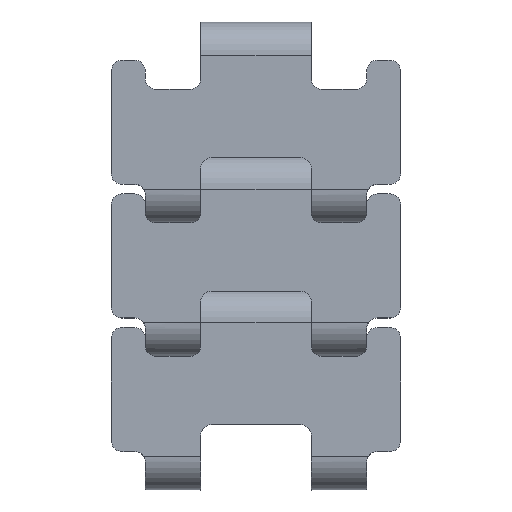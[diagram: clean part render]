
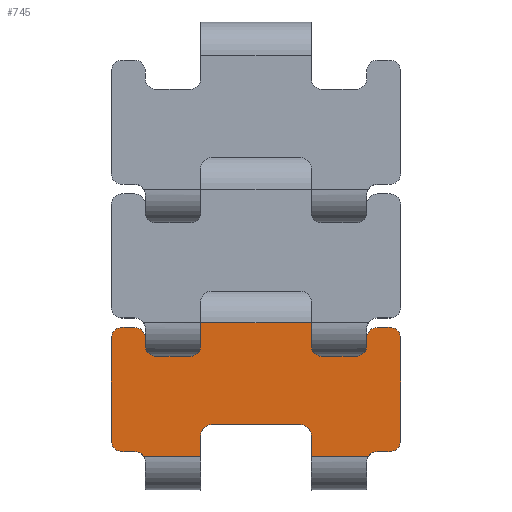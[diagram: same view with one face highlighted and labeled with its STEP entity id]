
A CAD part, top view. The second image highlights one B-rep face of the part: STEP entity #745.
In plain terms, the highlighted planar face has unit normal (0, 0, 1).
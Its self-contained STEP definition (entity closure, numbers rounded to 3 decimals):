
#673=EDGE_CURVE('',#1874,#1875,#1876,.T.);
#687=EDGE_CURVE('',#1897,#1898,#1899,.T.);
#689=EDGE_CURVE('',#1901,#1902,#1903,.T.);
#703=EDGE_CURVE('',#1928,#1929,#1930,.F.);
#745=ADVANCED_FACE('',(#2001),#2002,.F.);
#763=EDGE_CURVE('',#2034,#2004,#2035,.T.);
#781=EDGE_CURVE('',#2065,#2066,#2067,.F.);
#797=EDGE_CURVE('',#2091,#2092,#2093,.F.);
#831=EDGE_CURVE('',#1921,#2144,#2145,.T.);
#851=EDGE_CURVE('',#1928,#2177,#2178,.F.);
#985=EDGE_CURVE('',#2385,#2144,#2386,.T.);
#999=EDGE_CURVE('',#2177,#1921,#2403,.T.);
#1001=EDGE_CURVE('',#2405,#2406,#2407,.T.);
#1027=EDGE_CURVE('',#2216,#1874,#2442,.F.);
#1031=EDGE_CURVE('',#2004,#2405,#2446,.F.);
#1069=EDGE_CURVE('',#1902,#1897,#2499,.F.);
#1103=EDGE_CURVE('',#2092,#2301,#2547,.T.);
#1149=EDGE_CURVE('',#2610,#2358,#2611,.F.);
#1229=EDGE_CURVE('',#1757,#1901,#2715,.F.);
#1243=EDGE_CURVE('',#2358,#2733,#2734,.T.);
#1299=EDGE_CURVE('',#1875,#2806,#2807,.T.);
#1315=EDGE_CURVE('',#2825,#2826,#2827,.T.);
#1371=EDGE_CURVE('',#2406,#2825,#2898,.F.);
#1379=EDGE_CURVE('',#2385,#2529,#2907,.F.);
#1411=EDGE_CURVE('',#1929,#2034,#2943,.F.);
#1449=EDGE_CURVE('',#2216,#2065,#2988,.F.);
#1547=EDGE_CURVE('',#2301,#3037,#3101,.F.);
#1557=EDGE_CURVE('',#2733,#1898,#3111,.F.);
#1559=EDGE_CURVE('',#3037,#2259,#3113,.T.);
#1603=EDGE_CURVE('',#2066,#2091,#3166,.T.);
#1639=EDGE_CURVE('',#2826,#1757,#3205,.T.);
#1707=EDGE_CURVE('',#2529,#2806,#3288,.T.);
#1709=EDGE_CURVE('',#2259,#2610,#3290,.T.);
#1757=VERTEX_POINT('',#3335);
#1874=VERTEX_POINT('',#3491);
#1875=VERTEX_POINT('',#3492);
#1876=LINE('',#3493,#3494);
#1897=VERTEX_POINT('',#3521);
#1898=VERTEX_POINT('',#3522);
#1899=LINE('',#3523,#3524);
#1901=VERTEX_POINT('',#3527);
#1902=VERTEX_POINT('',#3528);
#1903=CIRCLE('',#3529,2.0);
#1921=VERTEX_POINT('',#3555);
#1928=VERTEX_POINT('',#3564);
#1929=VERTEX_POINT('',#3565);
#1930=LINE('',#3566,#3567);
#2001=FACE_OUTER_BOUND('',#3663,.T.);
#2002=PLANE('',#3664);
#2004=VERTEX_POINT('',#3667);
#2034=VERTEX_POINT('',#3709);
#2035=LINE('',#3710,#3711);
#2065=VERTEX_POINT('',#3749);
#2066=VERTEX_POINT('',#3750);
#2067=CIRCLE('',#3751,2.0);
#2091=VERTEX_POINT('',#3781);
#2092=VERTEX_POINT('',#3782);
#2093=CIRCLE('',#3783,2.0);
#2144=VERTEX_POINT('',#3848);
#2145=LINE('',#3849,#3850);
#2177=VERTEX_POINT('',#3893);
#2178=CIRCLE('',#3894,2.0);
#2216=VERTEX_POINT('',#3945);
#2259=VERTEX_POINT('',#4005);
#2301=VERTEX_POINT('',#4064);
#2358=VERTEX_POINT('',#4147);
#2385=VERTEX_POINT('',#4191);
#2386=CIRCLE('',#4192,2.0);
#2403=LINE('',#4218,#4219);
#2405=VERTEX_POINT('',#4222);
#2406=VERTEX_POINT('',#4223);
#2407=LINE('',#4224,#4225);
#2442=CIRCLE('',#4277,2.0);
#2446=CIRCLE('',#4284,2.0);
#2499=LINE('',#4368,#4369);
#2529=VERTEX_POINT('',#4411);
#2547=LINE('',#4440,#4441);
#2610=VERTEX_POINT('',#4532);
#2611=LINE('',#4533,#4534);
#2715=LINE('',#4699,#4700);
#2733=VERTEX_POINT('',#4725);
#2734=CIRCLE('',#4726,2.0);
#2806=VERTEX_POINT('',#4834);
#2807=LINE('',#4835,#4836);
#2825=VERTEX_POINT('',#4863);
#2826=VERTEX_POINT('',#4864);
#2827=LINE('',#4865,#4866);
#2898=CIRCLE('',#4965,2.0);
#2907=LINE('',#4980,#4981);
#2943=CIRCLE('',#5035,2.0);
#2988=LINE('',#5102,#5103);
#3037=VERTEX_POINT('',#5173);
#3101=CIRCLE('',#5273,2.0);
#3111=LINE('',#5289,#5290);
#3113=LINE('',#5293,#5294);
#3166=LINE('',#5369,#5370);
#3205=CIRCLE('',#5439,2.0);
#3288=CIRCLE('',#5557,2.0);
#3290=CIRCLE('',#5560,2.0);
#3335=CARTESIAN_POINT('',(19.05,19.0,6.4));
#3491=CARTESIAN_POINT('',(-21.38,0.0,6.4));
#3492=CARTESIAN_POINT('',(-10.5,0.,6.4));
#3493=CARTESIAN_POINT('',(-15.653,0.0,6.4));
#3494=VECTOR('',#5732,1.0);
#3521=CARTESIAN_POINT('',(10.5,25.4,6.4));
#3522=CARTESIAN_POINT('',(-10.5,25.4,6.4));
#3523=CARTESIAN_POINT('',(0.,25.4,6.4));
#3524=VECTOR('',#5766,1.0);
#3527=CARTESIAN_POINT('',(12.5,19.0,6.4));
#3528=CARTESIAN_POINT('',(10.5,21.0,6.4));
#3529=AXIS2_PLACEMENT_3D('',#5767,#5768,#5769);
#3555=CARTESIAN_POINT('',(10.5,0.,6.4));
#3564=CARTESIAN_POINT('',(23.05,0.9,6.4));
#3565=CARTESIAN_POINT('',(25.5,0.9,6.4));
#3566=CARTESIAN_POINT('',(11.525,0.9,6.4));
#3567=VECTOR('',#5782,1.0);
#3663=EDGE_LOOP('',(#5876,#5877,#5878,#5879,#5880,#5881,#5882,#5883,#5884,#5885,#5886,#5887,#5888,#5889,#5890,#5891,#5892,#5893,#5894,#5895,#5896,#5897,#5898,#5899,#5900,#5901,#5902,#5903,#5904,#5905,#5906,#5907));
#3664=AXIS2_PLACEMENT_3D('',#5908,#5909,#5910);
#3667=CARTESIAN_POINT('',(27.5,22.5,6.4));
#3709=CARTESIAN_POINT('',(27.5,2.9,6.4));
#3710=CARTESIAN_POINT('',(27.5,0.0,6.4));
#3711=VECTOR('',#5927,1.0);
#3749=CARTESIAN_POINT('',(-25.5,0.9,6.4));
#3750=CARTESIAN_POINT('',(-27.5,2.9,6.4));
#3751=AXIS2_PLACEMENT_3D('',#5973,#5974,#5975);
#3781=CARTESIAN_POINT('',(-27.5,22.5,6.4));
#3782=CARTESIAN_POINT('',(-25.5,24.5,6.4));
#3783=AXIS2_PLACEMENT_3D('',#6002,#6003,#6004);
#3848=CARTESIAN_POINT('',(10.5,4.,6.4));
#3849=CARTESIAN_POINT('',(10.5,0.,6.4));
#3850=VECTOR('',#6124,1.0);
#3893=CARTESIAN_POINT('',(21.38,0.0,6.4));
#3894=AXIS2_PLACEMENT_3D('',#6157,#6158,#6159);
#3945=CARTESIAN_POINT('',(-23.05,0.9,6.4));
#4005=CARTESIAN_POINT('',(-21.05,21.0,6.4));
#4064=CARTESIAN_POINT('',(-23.05,24.5,6.4));
#4147=CARTESIAN_POINT('',(-12.5,19.0,6.4));
#4191=CARTESIAN_POINT('',(8.5,6.,6.4));
#4192=AXIS2_PLACEMENT_3D('',#6407,#6408,#6409);
#4218=CARTESIAN_POINT('',(15.653,0.0,6.4));
#4219=VECTOR('',#6430,1.0);
#4222=CARTESIAN_POINT('',(25.5,24.5,6.4));
#4223=CARTESIAN_POINT('',(23.05,24.5,6.4));
#4224=CARTESIAN_POINT('',(11.525,24.5,6.4));
#4225=VECTOR('',#6431,1.0);
#4277=AXIS2_PLACEMENT_3D('',#6471,#6472,#6473);
#4284=AXIS2_PLACEMENT_3D('',#6475,#6476,#6477);
#4368=CARTESIAN_POINT('',(10.5,-2.2,6.4));
#4369=VECTOR('',#6539,1.0);
#4411=CARTESIAN_POINT('',(-8.5,6.,6.4));
#4440=CARTESIAN_POINT('',(-11.525,24.5,6.4));
#4441=VECTOR('',#6585,1.0);
#4532=CARTESIAN_POINT('',(-19.05,19.0,6.4));
#4533=CARTESIAN_POINT('',(6.25,19.0,6.4));
#4534=VECTOR('',#6657,1.0);
#4699=CARTESIAN_POINT('',(-6.25,19.0,6.4));
#4700=VECTOR('',#6810,1.0);
#4725=CARTESIAN_POINT('',(-10.5,21.0,6.4));
#4726=AXIS2_PLACEMENT_3D('',#6832,#6833,#6834);
#4834=CARTESIAN_POINT('',(-10.5,4.,6.4));
#4835=CARTESIAN_POINT('',(-10.5,0.,6.4));
#4836=VECTOR('',#6939,1.0);
#4863=CARTESIAN_POINT('',(21.05,22.5,6.4));
#4864=CARTESIAN_POINT('',(21.05,21.0,6.4));
#4865=CARTESIAN_POINT('',(21.05,-2.2,6.4));
#4866=VECTOR('',#6966,1.0);
#4965=AXIS2_PLACEMENT_3D('',#7107,#7108,#7109);
#4980=CARTESIAN_POINT('',(0.0,6.0,6.4));
#4981=VECTOR('',#7115,1.0);
#5035=AXIS2_PLACEMENT_3D('',#7166,#7167,#7168);
#5102=CARTESIAN_POINT('',(-11.525,0.9,6.4));
#5103=VECTOR('',#7243,1.0);
#5173=CARTESIAN_POINT('',(-21.05,22.5,6.4));
#5273=AXIS2_PLACEMENT_3D('',#7408,#7409,#7410);
#5289=CARTESIAN_POINT('',(-10.5,-2.2,6.4));
#5290=VECTOR('',#7421,1.0);
#5293=CARTESIAN_POINT('',(-21.05,-2.2,6.4));
#5294=VECTOR('',#7422,1.0);
#5369=CARTESIAN_POINT('',(-27.5,0.0,6.4));
#5370=VECTOR('',#7518,1.0);
#5439=AXIS2_PLACEMENT_3D('',#7557,#7558,#7559);
#5557=AXIS2_PLACEMENT_3D('',#7746,#7747,#7748);
#5560=AXIS2_PLACEMENT_3D('',#7749,#7750,#7751);
#5732=DIRECTION('',(1.0,0.0,0.0));
#5766=DIRECTION('',(-1.0,0.0,0.0));
#5767=CARTESIAN_POINT('',(12.5,21.0,6.4));
#5768=DIRECTION('',(0.0,-0.0,-1.0));
#5769=DIRECTION('',(0.,-1.0,0.0));
#5782=DIRECTION('',(-1.0,0.,0.0));
#5876=ORIENTED_EDGE('',*,*,#1379,.F.);
#5877=ORIENTED_EDGE('',*,*,#985,.T.);
#5878=ORIENTED_EDGE('',*,*,#831,.F.);
#5879=ORIENTED_EDGE('',*,*,#999,.F.);
#5880=ORIENTED_EDGE('',*,*,#851,.F.);
#5881=ORIENTED_EDGE('',*,*,#703,.T.);
#5882=ORIENTED_EDGE('',*,*,#1411,.T.);
#5883=ORIENTED_EDGE('',*,*,#763,.T.);
#5884=ORIENTED_EDGE('',*,*,#1031,.T.);
#5885=ORIENTED_EDGE('',*,*,#1001,.T.);
#5886=ORIENTED_EDGE('',*,*,#1371,.T.);
#5887=ORIENTED_EDGE('',*,*,#1315,.T.);
#5888=ORIENTED_EDGE('',*,*,#1639,.T.);
#5889=ORIENTED_EDGE('',*,*,#1229,.T.);
#5890=ORIENTED_EDGE('',*,*,#689,.T.);
#5891=ORIENTED_EDGE('',*,*,#1069,.T.);
#5892=ORIENTED_EDGE('',*,*,#687,.T.);
#5893=ORIENTED_EDGE('',*,*,#1557,.F.);
#5894=ORIENTED_EDGE('',*,*,#1243,.F.);
#5895=ORIENTED_EDGE('',*,*,#1149,.F.);
#5896=ORIENTED_EDGE('',*,*,#1709,.F.);
#5897=ORIENTED_EDGE('',*,*,#1559,.F.);
#5898=ORIENTED_EDGE('',*,*,#1547,.F.);
#5899=ORIENTED_EDGE('',*,*,#1103,.F.);
#5900=ORIENTED_EDGE('',*,*,#797,.F.);
#5901=ORIENTED_EDGE('',*,*,#1603,.F.);
#5902=ORIENTED_EDGE('',*,*,#781,.F.);
#5903=ORIENTED_EDGE('',*,*,#1449,.F.);
#5904=ORIENTED_EDGE('',*,*,#1027,.T.);
#5905=ORIENTED_EDGE('',*,*,#673,.T.);
#5906=ORIENTED_EDGE('',*,*,#1299,.T.);
#5907=ORIENTED_EDGE('',*,*,#1707,.F.);
#5908=CARTESIAN_POINT('',(0.0,0.0,6.4));
#5909=DIRECTION('',(0.0,0.0,-1.0));
#5910=DIRECTION('',(0.0,-1.0,0.0));
#5927=DIRECTION('',(0.0,1.0,0.0));
#5973=CARTESIAN_POINT('',(-25.5,2.9,6.4));
#5974=DIRECTION('',(0.0,0.0,1.0));
#5975=DIRECTION('',(0.,-1.0,0.0));
#6002=CARTESIAN_POINT('',(-25.5,22.5,6.4));
#6003=DIRECTION('',(0.0,-0.0,1.0));
#6004=DIRECTION('',(0.0,1.0,0.0));
#6124=DIRECTION('',(-0.0,1.0,0.0));
#6157=CARTESIAN_POINT('',(23.05,-1.1,6.4));
#6158=DIRECTION('',(-0.0,0.0,-1.0));
#6159=DIRECTION('',(-1.0,0.,0.0));
#6407=CARTESIAN_POINT('',(8.5,4.0,6.4));
#6408=DIRECTION('',(0.0,0.0,-1.0));
#6409=DIRECTION('',(0.,1.,0.0));
#6430=DIRECTION('',(-1.0,0.0,0.0));
#6431=DIRECTION('',(-1.0,0.0,0.0));
#6471=CARTESIAN_POINT('',(-23.05,-1.1,6.4));
#6472=DIRECTION('',(-0.0,0.0,1.0));
#6473=DIRECTION('',(1.0,0.,0.0));
#6475=CARTESIAN_POINT('',(25.5,22.5,6.4));
#6476=DIRECTION('',(0.0,0.0,-1.0));
#6477=DIRECTION('',(0.0,1.0,0.0));
#6539=DIRECTION('',(0.0,-1.0,0.0));
#6585=DIRECTION('',(1.0,0.0,0.0));
#6657=DIRECTION('',(-1.0,0.0,-0.0));
#6810=DIRECTION('',(1.0,0.0,0.0));
#6832=CARTESIAN_POINT('',(-12.5,21.0,6.4));
#6833=DIRECTION('',(-0.0,0.0,1.0));
#6834=DIRECTION('',(0.,-1.0,-0.0));
#6939=DIRECTION('',(0.0,1.0,0.0));
#6966=DIRECTION('',(0.0,-1.0,0.0));
#7107=CARTESIAN_POINT('',(23.05,22.5,6.4));
#7108=DIRECTION('',(-0.0,0.0,-1.0));
#7109=DIRECTION('',(-1.0,0.0,0.0));
#7115=DIRECTION('',(1.0,0.,0.0));
#7166=CARTESIAN_POINT('',(25.5,2.9,6.4));
#7167=DIRECTION('',(-0.0,0.0,-1.0));
#7168=DIRECTION('',(0.,-1.0,0.0));
#7243=DIRECTION('',(1.0,0.,0.0));
#7408=CARTESIAN_POINT('',(-23.05,22.5,6.4));
#7409=DIRECTION('',(0.0,-0.0,1.0));
#7410=DIRECTION('',(1.0,0.0,0.0));
#7421=DIRECTION('',(-0.0,-1.0,-0.0));
#7422=DIRECTION('',(-0.0,-1.0,-0.0));
#7518=DIRECTION('',(0.0,1.0,0.0));
#7557=CARTESIAN_POINT('',(19.05,21.0,6.4));
#7558=DIRECTION('',(0.0,0.0,-1.0));
#7559=DIRECTION('',(1.0,0.,0.0));
#7746=CARTESIAN_POINT('',(-8.5,4.0,6.4));
#7747=DIRECTION('',(0.0,-0.0,1.0));
#7748=DIRECTION('',(0.,1.,0.0));
#7749=CARTESIAN_POINT('',(-19.05,21.0,6.4));
#7750=DIRECTION('',(0.0,-0.0,1.0));
#7751=DIRECTION('',(-1.0,0.,0.0));
